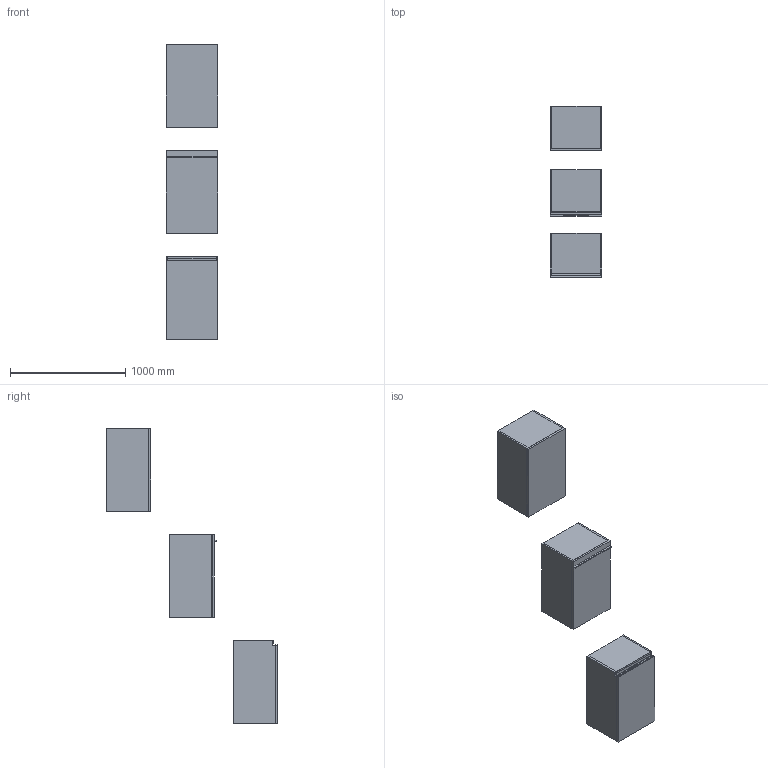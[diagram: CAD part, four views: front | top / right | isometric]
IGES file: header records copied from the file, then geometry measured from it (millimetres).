
Start section: Data from Parasolid IGES Translator 19.0.9, Copyright(c) 2006 Siemens PL M Software. All Rights Reserved.
Global section: file name: noorth-SI-H 72 D 38,8 W 45_8606.igs; native system: By Siemens PLM Incorporated; preprocessor: XPlus GENERIC/IGES 19.0.9; author: Noname; organization: Noname; date: 20200601.115749; units: metre
Bounding box: 450.01 x 1485.1 x 2560.01 mm (x, y, z)
Volume: 60310745.9 mm3; surface area: 9176016.8 mm2
Topology: 20 solids, 20 shells, 178 faces, 382 edges, 234 vertices
Faces by surface type: plane 134, extrusion 16, bspline 16, cylinder 12
